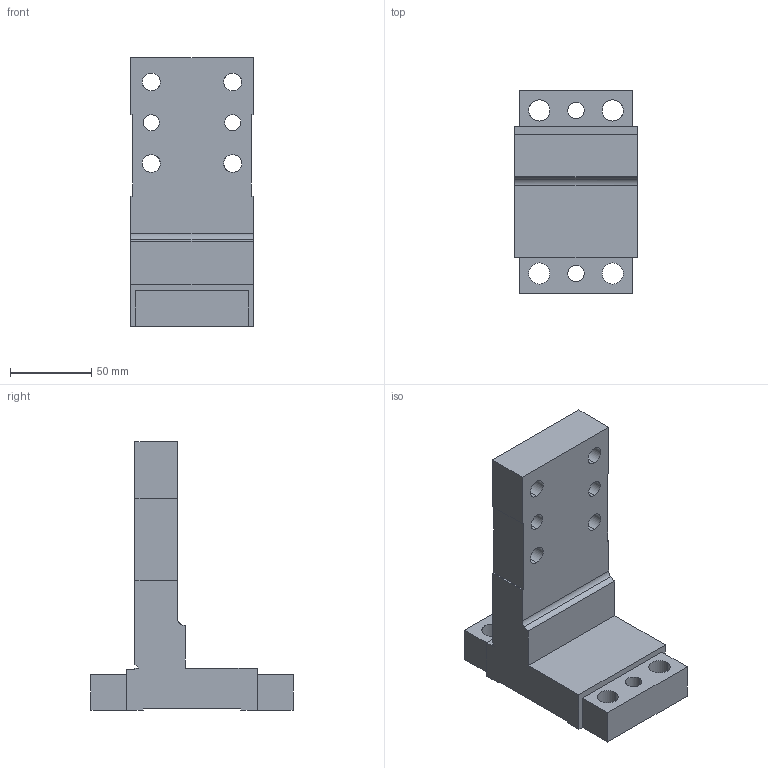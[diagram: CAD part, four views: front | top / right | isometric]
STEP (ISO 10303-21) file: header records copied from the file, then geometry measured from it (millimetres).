
FILE_DESCRIPTION (( 'STEP AP203' ), '1' );
FILE_NAME ('Clampact_KLP-EU-630-H100.STEP', '2023-07-16T13:13:23', ( '' ), ( '' ), 'SwSTEP 2.0', 'SolidWorks 2018', '' );
FILE_SCHEMA (( 'CONFIG_CONTROL_DESIGN' ));
Length unit declared in the file: millimetre
Products named in the file (1): Clampact_KLP-EU-630-H100
Bounding box: 75 x 124 x 165 mm (x, y, z)
Volume: 467247.7 mm3; surface area: 64193.1 mm2
Topology: 1 solids, 1 shells, 357 faces, 972 edges, 648 vertices
Faces by surface type: plane 186, bspline 145, cylinder 26
Entity records: 19174 total; most frequent: CARTESIAN_POINT 11042, ORIENTED_EDGE 1944, DIRECTION 1108, EDGE_CURVE 972, VERTEX_POINT 648, LINE 630, VECTOR 630, EDGE_LOOP 412
